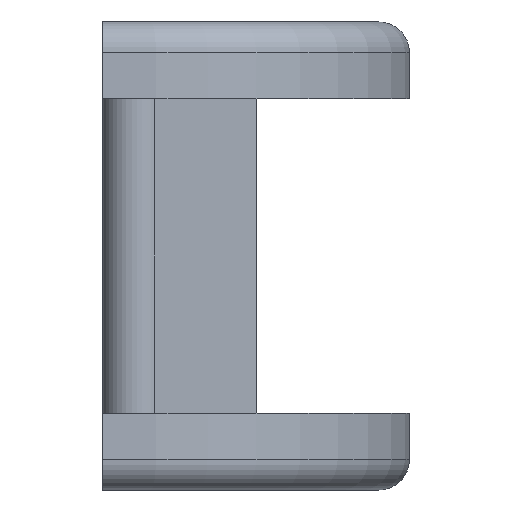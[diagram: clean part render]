
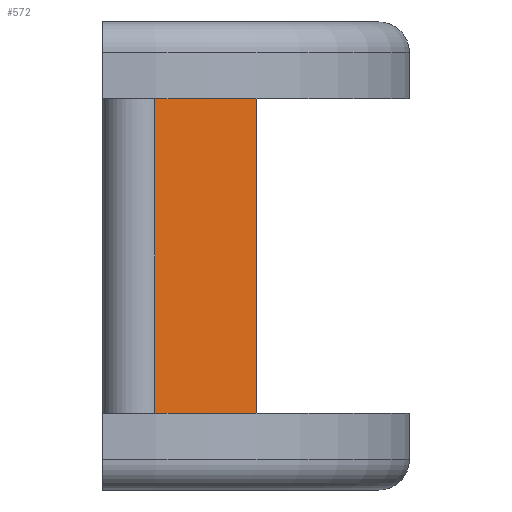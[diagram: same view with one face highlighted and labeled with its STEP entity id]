
A CAD part, front view. The second image highlights one B-rep face of the part: STEP entity #572.
In plain terms, the highlighted planar face has unit normal (0.707, -0.707, 0).
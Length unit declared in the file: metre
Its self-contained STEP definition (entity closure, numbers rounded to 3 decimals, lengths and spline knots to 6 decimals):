
#53=LINE('',#920,#103);
#64=LINE('',#949,#114);
#65=LINE('',#952,#115);
#66=LINE('',#953,#116);
#103=VECTOR('',#729,1.);
#114=VECTOR('',#756,1.);
#115=VECTOR('',#757,1.);
#116=VECTOR('',#758,1.);
#194=ORIENTED_EDGE('',*,*,#337,.F.);
#195=ORIENTED_EDGE('',*,*,#338,.T.);
#196=ORIENTED_EDGE('',*,*,#322,.T.);
#197=ORIENTED_EDGE('',*,*,#339,.F.);
#322=EDGE_CURVE('',#397,#396,#53,.T.);
#337=EDGE_CURVE('',#407,#408,#64,.T.);
#338=EDGE_CURVE('',#407,#397,#65,.T.);
#339=EDGE_CURVE('',#408,#396,#66,.T.);
#396=VERTEX_POINT('',#919);
#397=VERTEX_POINT('',#921);
#407=VERTEX_POINT('',#950);
#408=VERTEX_POINT('',#951);
#467=EDGE_LOOP('',(#194,#195,#196,#197));
#513=FACE_BOUND('',#467,.T.);
#554=PLANE('',#631);
#572=ADVANCED_FACE('',(#513),#554,.F.);
#631=AXIS2_PLACEMENT_3D('',#948,#754,#755);
#729=DIRECTION('',(0.707,0.707,0.));
#754=DIRECTION('',(-0.707,0.707,0.));
#755=DIRECTION('',(-0.707,-0.707,0.));
#756=DIRECTION('',(0.707,0.707,0.));
#757=DIRECTION('',(0.,0.,-1.));
#758=DIRECTION('',(0.,0.,-1.));
#919=CARTESIAN_POINT('',(0.,-0.03175,0.));
#920=CARTESIAN_POINT('',(-0.003175,-0.034925,0.));
#921=CARTESIAN_POINT('',(-0.004182,-0.035932,0.));
#948=CARTESIAN_POINT('',(-0.003175,-0.034925,0.013018));
#949=CARTESIAN_POINT('',(-0.003175,-0.034925,0.013018));
#950=CARTESIAN_POINT('',(-0.004182,-0.035932,0.013018));
#951=CARTESIAN_POINT('',(0.,-0.03175,0.013018));
#952=CARTESIAN_POINT('',(-0.004182,-0.035932,0.013018));
#953=CARTESIAN_POINT('',(0.,-0.03175,0.013018));
